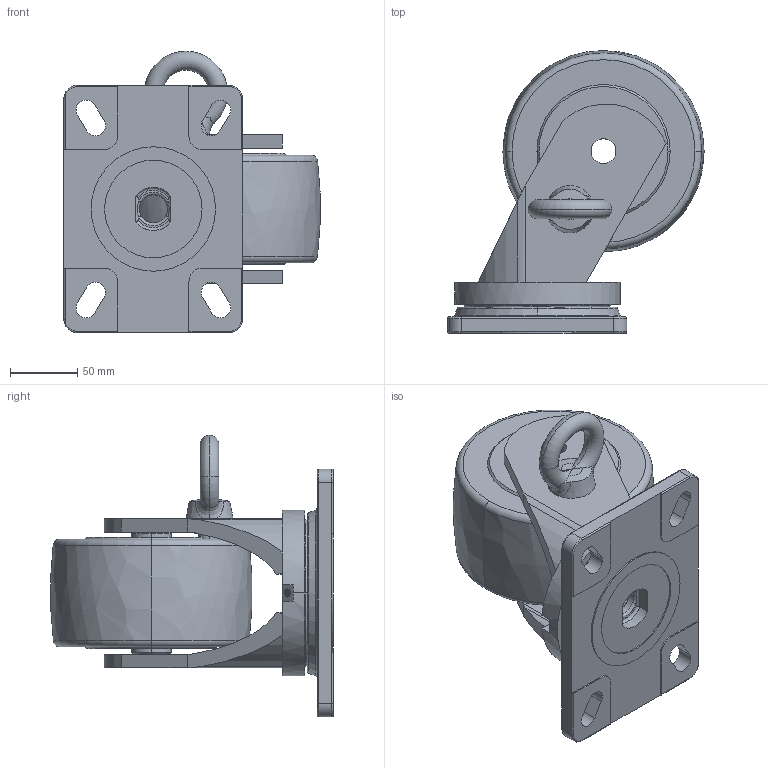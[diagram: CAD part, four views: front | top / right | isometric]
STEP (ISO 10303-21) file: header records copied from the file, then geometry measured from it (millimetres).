
FILE_DESCRIPTION((''),'2;1');
FILE_NAME('93126C-936-26_ASM_1_ASM','2024-01-18T',('Lenovo'),(''),'PRO/ENGINEER BY PARAMETRIC TECHNOLOGY CORPORATION, 2010280','PRO/ENGINEER BY PARAMETRIC TECHNOLOGY CORPORATION, 2010280','');
FILE_SCHEMA(('CONFIG_CONTROL_DESIGN'));
Length unit declared in the file: millimetre
Products named in the file (10): 930C03_1; MANIFOLD_SOLID_BREP_5067; MANIFOLD_SOLID_BREP_5576; 936C12_3_ASM; 9310-201_1; 936-826_1; 930-54_1; 936-26_ASM_1_ASM; LUODING_2; 93126C-936-26_ASM_1_ASM
Assembly tree (9 placements, depth 3):
  93126C-936-26_ASM_1_ASM
    930C03_1
    936C12_3_ASM
      MANIFOLD_SOLID_BREP_5067
      MANIFOLD_SOLID_BREP_5576
    9310-201_1
    936-26_ASM_1_ASM
      936-826_1
      930-54_1
    LUODING_2
Bounding box: 190.5 x 210.11 x 209.25 mm (x, y, z)
Volume: 1910806.3 mm3; surface area: 249790.3 mm2
Topology: 7 solids, 7 shells, 268 faces, 691 edges, 448 vertices
Faces by surface type: cylinder 108, plane 70, torus 44, cone 26, bspline 20
Entity records: 11633 total; most frequent: CARTESIAN_POINT 4870, DIRECTION 1399, ORIENTED_EDGE 1382, EDGE_CURVE 691, AXIS2_PLACEMENT_3D 576, VERTEX_POINT 448, EDGE_LOOP 305, CIRCLE 305
